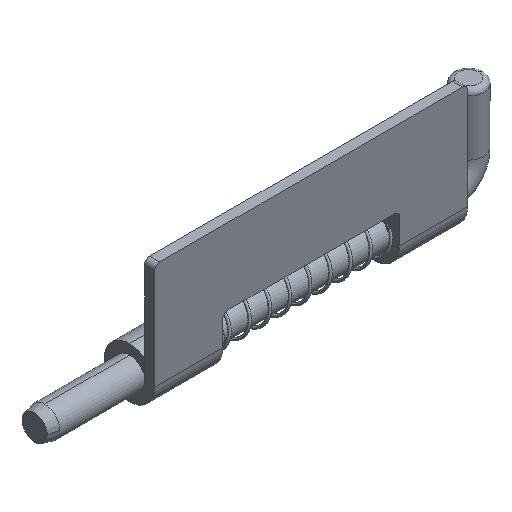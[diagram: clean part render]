
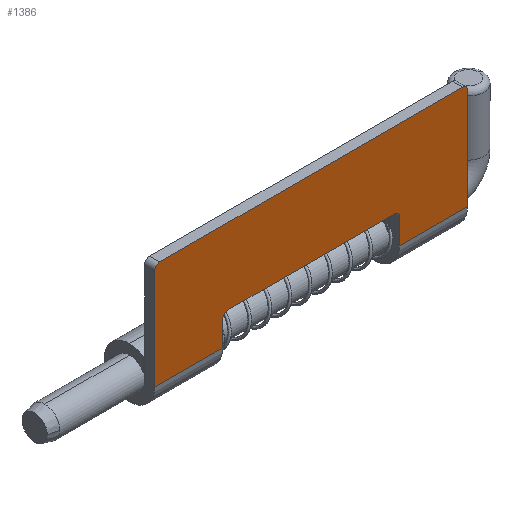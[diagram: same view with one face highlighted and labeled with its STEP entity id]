
A CAD part, isometric view. The second image highlights one B-rep face of the part: STEP entity #1386.
In plain terms, the highlighted planar face has unit normal (0, -1, 0).
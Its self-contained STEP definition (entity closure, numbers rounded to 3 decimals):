
#9 = DIRECTION ( 'NONE',  ( 0., 0., 1. ) ) ;
#78 = VECTOR ( 'NONE', #184, 1000. ) ;
#112 = DIRECTION ( 'NONE',  ( 0., 1., 0. ) ) ;
#114 = DIRECTION ( 'NONE',  ( 0., -1., 0. ) ) ;
#148 = DIRECTION ( 'NONE',  ( 0., 0., 1. ) ) ;
#184 = DIRECTION ( 'NONE',  ( 1., 0., 0. ) ) ;
#218 = ORIENTED_EDGE ( 'NONE', *, *, #548, .T. ) ;
#229 = CARTESIAN_POINT ( 'NONE',  ( -31., 0., 0. ) ) ;
#298 = CARTESIAN_POINT ( 'NONE',  ( 30., 0., 20. ) ) ;
#317 = CARTESIAN_POINT ( 'NONE',  ( -30., 0., 21. ) ) ;
#319 = DIRECTION ( 'NONE',  ( -1., 0., 0. ) ) ;
#433 = CARTESIAN_POINT ( 'NONE',  ( 31., 0., 21. ) ) ;
#548 = EDGE_CURVE ( 'NONE', #1883, #5609, #2666, .T. ) ;
#609 = LINE ( 'NONE', #1563, #78 ) ;
#624 = VECTOR ( 'NONE', #4915, 1000. ) ;
#647 = ORIENTED_EDGE ( 'NONE', *, *, #4790, .T. ) ;
#727 = CARTESIAN_POINT ( 'NONE',  ( 16.5, 0., 6. ) ) ;
#749 = LINE ( 'NONE', #4832, #2235 ) ;
#954 = DIRECTION ( 'NONE',  ( 0., 0., -1. ) ) ;
#1107 = ORIENTED_EDGE ( 'NONE', *, *, #5308, .T. ) ;
#1162 = VERTEX_POINT ( 'NONE', #4770 ) ;
#1291 = EDGE_CURVE ( 'NONE', #5609, #4129, #4076, .T. ) ;
#1386 = ADVANCED_FACE ( 'NONE', ( #2313 ), #3670, .F. ) ;
#1451 = LINE ( 'NONE', #3154, #624 ) ;
#1470 = VERTEX_POINT ( 'NONE', #4887 ) ;
#1531 = DIRECTION ( 'NONE',  ( 0., 1., 0. ) ) ;
#1533 = CARTESIAN_POINT ( 'NONE',  ( -31., 0., 0. ) ) ;
#1563 = CARTESIAN_POINT ( 'NONE',  ( -17.5, 0., 6. ) ) ;
#1576 = CARTESIAN_POINT ( 'NONE',  ( -31., 0., 20. ) ) ;
#1664 = CARTESIAN_POINT ( 'NONE',  ( 17.5, 0., 5. ) ) ;
#1816 = CARTESIAN_POINT ( 'NONE',  ( 30., 0., 21. ) ) ;
#1829 = DIRECTION ( 'NONE',  ( 0., -1., 0. ) ) ;
#1883 = VERTEX_POINT ( 'NONE', #317 ) ;
#1896 = DIRECTION ( 'NONE',  ( 0., 0., -1. ) ) ;
#1923 = DIRECTION ( 'NONE',  ( -1., 0., 0. ) ) ;
#1927 = AXIS2_PLACEMENT_3D ( 'NONE', #5419, #114, #3632 ) ;
#2076 = VERTEX_POINT ( 'NONE', #1816 ) ;
#2200 = DIRECTION ( 'NONE',  ( -1., 0., 0. ) ) ;
#2235 = VECTOR ( 'NONE', #954, 1000. ) ;
#2304 = EDGE_CURVE ( 'NONE', #5328, #3951, #609, .T. ) ;
#2313 = FACE_OUTER_BOUND ( 'NONE', #3796, .T. ) ;
#2330 = VERTEX_POINT ( 'NONE', #4579 ) ;
#2372 = CARTESIAN_POINT ( 'NONE',  ( -17.5, 0., 0. ) ) ;
#2410 = VECTOR ( 'NONE', #2200, 1000. ) ;
#2430 = DIRECTION ( 'NONE',  ( 0., 0., -1. ) ) ;
#2459 = CARTESIAN_POINT ( 'NONE',  ( 17.5, 0., -5. ) ) ;
#2577 = VECTOR ( 'NONE', #1896, 1000. ) ;
#2666 = CIRCLE ( 'NONE', #1927, 1. ) ;
#2684 = LINE ( 'NONE', #433, #2410 ) ;
#2685 = VECTOR ( 'NONE', #2430, 1000. ) ;
#2708 = DIRECTION ( 'NONE',  ( 0., 0., 1. ) ) ;
#2919 = EDGE_CURVE ( 'NONE', #1162, #4960, #749, .T. ) ;
#2935 = LINE ( 'NONE', #2459, #2685 ) ;
#2943 = ORIENTED_EDGE ( 'NONE', *, *, #2919, .F. ) ;
#2973 = VERTEX_POINT ( 'NONE', #1664 ) ;
#2989 = CARTESIAN_POINT ( 'NONE',  ( 16.5, 0., 5. ) ) ;
#3000 = ORIENTED_EDGE ( 'NONE', *, *, #2304, .T. ) ;
#3154 = CARTESIAN_POINT ( 'NONE',  ( -17.5, 0., 0. ) ) ;
#3363 = EDGE_CURVE ( 'NONE', #3951, #2973, #5237, .T. ) ;
#3464 = CARTESIAN_POINT ( 'NONE',  ( 31., 0., 0. ) ) ;
#3493 = DIRECTION ( 'NONE',  ( 0., 0., 1. ) ) ;
#3632 = DIRECTION ( 'NONE',  ( 0., 0., 1. ) ) ;
#3656 = AXIS2_PLACEMENT_3D ( 'NONE', #4017, #1531, #148 ) ;
#3670 = PLANE ( 'NONE',  #3656 ) ;
#3755 = CARTESIAN_POINT ( 'NONE',  ( 31., 0., 0. ) ) ;
#3796 = EDGE_LOOP ( 'NONE', ( #1107, #218, #4012, #4807, #4531, #5615, #3000, #5014, #647, #5072, #2943, #5035 ) ) ;
#3926 = CARTESIAN_POINT ( 'NONE',  ( -16.5, 0., 6. ) ) ;
#3951 = VERTEX_POINT ( 'NONE', #727 ) ;
#3985 = CARTESIAN_POINT ( 'NONE',  ( -16.5, 0., 5. ) ) ;
#4012 = ORIENTED_EDGE ( 'NONE', *, *, #1291, .T. ) ;
#4017 = CARTESIAN_POINT ( 'NONE',  ( 31., 0., 0. ) ) ;
#4037 = EDGE_CURVE ( 'NONE', #1162, #2076, #5252, .T. ) ;
#4051 = VECTOR ( 'NONE', #1923, 1000. ) ;
#4076 = LINE ( 'NONE', #229, #2577 ) ;
#4129 = VERTEX_POINT ( 'NONE', #1533 ) ;
#4135 = AXIS2_PLACEMENT_3D ( 'NONE', #3985, #4373, #9 ) ;
#4284 = EDGE_CURVE ( 'NONE', #4960, #1470, #5395, .T. ) ;
#4353 = VERTEX_POINT ( 'NONE', #2372 ) ;
#4373 = DIRECTION ( 'NONE',  ( 0., 1., 0. ) ) ;
#4409 = EDGE_CURVE ( 'NONE', #2330, #4353, #1451, .T. ) ;
#4418 = AXIS2_PLACEMENT_3D ( 'NONE', #298, #1829, #2708 ) ;
#4464 = EDGE_CURVE ( 'NONE', #4353, #4129, #5145, .T. ) ;
#4531 = ORIENTED_EDGE ( 'NONE', *, *, #4409, .F. ) ;
#4579 = CARTESIAN_POINT ( 'NONE',  ( -17.5, 0., 5. ) ) ;
#4770 = CARTESIAN_POINT ( 'NONE',  ( 31., 0., 20. ) ) ;
#4776 = VECTOR ( 'NONE', #319, 1000. ) ;
#4790 = EDGE_CURVE ( 'NONE', #2973, #1470, #2935, .T. ) ;
#4807 = ORIENTED_EDGE ( 'NONE', *, *, #4464, .F. ) ;
#4832 = CARTESIAN_POINT ( 'NONE',  ( 31., 0., 0. ) ) ;
#4887 = CARTESIAN_POINT ( 'NONE',  ( 17.5, 0., 0. ) ) ;
#4890 = CARTESIAN_POINT ( 'NONE',  ( 31., 0., 0. ) ) ;
#4915 = DIRECTION ( 'NONE',  ( 0., 0., -1. ) ) ;
#4960 = VERTEX_POINT ( 'NONE', #3464 ) ;
#5014 = ORIENTED_EDGE ( 'NONE', *, *, #3363, .T. ) ;
#5035 = ORIENTED_EDGE ( 'NONE', *, *, #4037, .T. ) ;
#5072 = ORIENTED_EDGE ( 'NONE', *, *, #4284, .F. ) ;
#5125 = EDGE_CURVE ( 'NONE', #2330, #5328, #5326, .T. ) ;
#5145 = LINE ( 'NONE', #3755, #4776 ) ;
#5237 = CIRCLE ( 'NONE', #5416, 1. ) ;
#5252 = CIRCLE ( 'NONE', #4418, 1. ) ;
#5308 = EDGE_CURVE ( 'NONE', #2076, #1883, #2684, .T. ) ;
#5326 = CIRCLE ( 'NONE', #4135, 1. ) ;
#5328 = VERTEX_POINT ( 'NONE', #3926 ) ;
#5395 = LINE ( 'NONE', #4890, #4051 ) ;
#5416 = AXIS2_PLACEMENT_3D ( 'NONE', #2989, #112, #3493 ) ;
#5419 = CARTESIAN_POINT ( 'NONE',  ( -30., 0., 20. ) ) ;
#5609 = VERTEX_POINT ( 'NONE', #1576 ) ;
#5615 = ORIENTED_EDGE ( 'NONE', *, *, #5125, .T. ) ;
